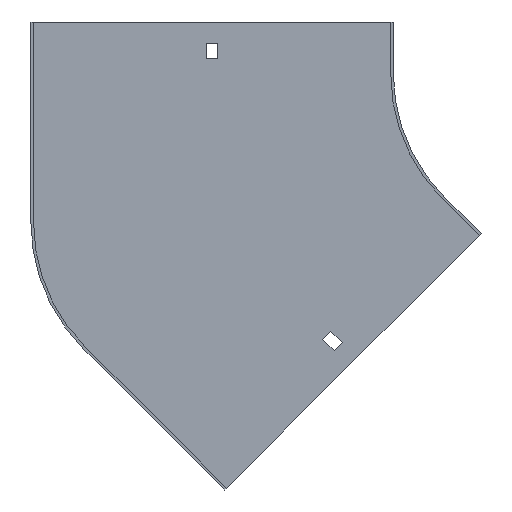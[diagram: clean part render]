
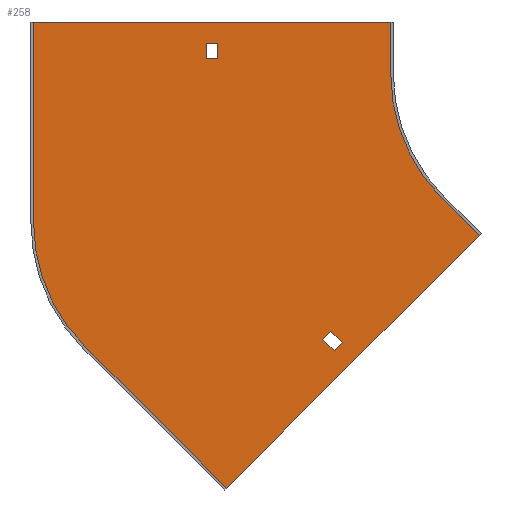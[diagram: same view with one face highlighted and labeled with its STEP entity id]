
A CAD part, front view. The second image highlights one B-rep face of the part: STEP entity #258.
In plain terms, the highlighted planar face has unit normal (0, -1, 0).
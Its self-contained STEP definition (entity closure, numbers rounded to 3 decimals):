
#14 = DIRECTION ( 'NONE',  ( 1., 0., 0. ) ) ;
#22 = EDGE_LOOP ( 'NONE', ( #295, #64, #396, #722 ) ) ;
#36 = CARTESIAN_POINT ( 'NONE',  ( -140.537, -1.5, -140.537 ) ) ;
#39 = VERTEX_POINT ( 'NONE', #66 ) ;
#41 = LINE ( 'NONE', #36, #296 ) ;
#59 = VECTOR ( 'NONE', #246, 1000. ) ;
#64 = ORIENTED_EDGE ( 'NONE', *, *, #183, .T. ) ;
#66 = CARTESIAN_POINT ( 'NONE',  ( -49.497, -1.5, -91.924 ) ) ;
#67 = VECTOR ( 'NONE', #14, 1000. ) ;
#71 = LINE ( 'NONE', #613, #67 ) ;
#80 = VERTEX_POINT ( 'NONE', #731 ) ;
#92 = LINE ( 'NONE', #821, #505 ) ;
#97 = FACE_BOUND ( 'NONE', #22, .T. ) ;
#98 = AXIS2_PLACEMENT_3D ( 'NONE', #254, #718, #122 ) ;
#109 = EDGE_CURVE ( 'NONE', #740, #611, #71, .T. ) ;
#121 = EDGE_CURVE ( 'NONE', #611, #605, #732, .T. ) ;
#122 = DIRECTION ( 'NONE',  ( 0., 0., -1. ) ) ;
#130 = VERTEX_POINT ( 'NONE', #672 ) ;
#141 = ORIENTED_EDGE ( 'NONE', *, *, #393, .F. ) ;
#151 = LINE ( 'NONE', #157, #405 ) ;
#152 = ORIENTED_EDGE ( 'NONE', *, *, #121, .F. ) ;
#157 = CARTESIAN_POINT ( 'NONE',  ( -205.25, -1.5, 0. ) ) ;
#166 = DIRECTION ( 'NONE',  ( -0.707, 0., -0.707 ) ) ;
#172 = VERTEX_POINT ( 'NONE', #753 ) ;
#173 = EDGE_CURVE ( 'NONE', #367, #740, #369, .T. ) ;
#174 = CARTESIAN_POINT ( 'NONE',  ( -205.25, -1.5, 18. ) ) ;
#183 = EDGE_CURVE ( 'NONE', #130, #172, #92, .T. ) ;
#200 = LINE ( 'NONE', #606, #340 ) ;
#212 = VERTEX_POINT ( 'NONE', #432 ) ;
#217 = VERTEX_POINT ( 'NONE', #574 ) ;
#219 = VECTOR ( 'NONE', #262, 1000. ) ;
#223 = DIRECTION ( 'NONE',  ( 0., 0., -1. ) ) ;
#239 = DIRECTION ( 'NONE',  ( 1., 0., 0. ) ) ;
#242 = AXIS2_PLACEMENT_3D ( 'NONE', #500, #556, #621 ) ;
#243 = DIRECTION ( 'NONE',  ( 0., 0., -1. ) ) ;
#244 = EDGE_CURVE ( 'NONE', #612, #812, #151, .T. ) ;
#246 = DIRECTION ( 'NONE',  ( -0.707, 0., -0.707 ) ) ;
#248 = ORIENTED_EDGE ( 'NONE', *, *, #593, .F. ) ;
#252 = CARTESIAN_POINT ( 'NONE',  ( -70.711, -1.5, -70.711 ) ) ;
#254 = CARTESIAN_POINT ( 'NONE',  ( -204., -1.5, -84.5 ) ) ;
#258 = ADVANCED_FACE ( 'NONE', ( #833, #705, #97 ), #366, .T. ) ;
#262 = DIRECTION ( 'NONE',  ( -1., 0., 0. ) ) ;
#264 = EDGE_CURVE ( 'NONE', #605, #590, #835, .T. ) ;
#267 = DIRECTION ( 'NONE',  ( 0., 0., -1. ) ) ;
#272 = DIRECTION ( 'NONE',  ( 0.707, 0., 0.707 ) ) ;
#279 = ORIENTED_EDGE ( 'NONE', *, *, #109, .F. ) ;
#295 = ORIENTED_EDGE ( 'NONE', *, *, #326, .T. ) ;
#296 = VECTOR ( 'NONE', #626, 1000. ) ;
#305 = DIRECTION ( 'NONE',  ( -0.707, 0., 0.707 ) ) ;
#307 = LINE ( 'NONE', #829, #735 ) ;
#313 = LINE ( 'NONE', #834, #59 ) ;
#323 = EDGE_LOOP ( 'NONE', ( #328, #736, #141, #442 ) ) ;
#324 = LINE ( 'NONE', #392, #770 ) ;
#326 = EDGE_CURVE ( 'NONE', #812, #130, #307, .T. ) ;
#328 = ORIENTED_EDGE ( 'NONE', *, *, #752, .F. ) ;
#340 = VECTOR ( 'NONE', #272, 1000. ) ;
#360 = EDGE_CURVE ( 'NONE', #217, #367, #483, .T. ) ;
#363 = AXIS2_PLACEMENT_3D ( 'NONE', #374, #451, #243 ) ;
#366 = PLANE ( 'NONE',  #242 ) ;
#367 = VERTEX_POINT ( 'NONE', #463 ) ;
#369 = LINE ( 'NONE', #495, #646 ) ;
#374 = CARTESIAN_POINT ( 'NONE',  ( 0., -1.5, 0. ) ) ;
#378 = LINE ( 'NONE', #506, #661 ) ;
#379 = DIRECTION ( 'NONE',  ( 0., 0., 1. ) ) ;
#392 = CARTESIAN_POINT ( 'NONE',  ( -70.711, -1.5, -70.711 ) ) ;
#393 = EDGE_CURVE ( 'NONE', #547, #846, #466, .T. ) ;
#396 = ORIENTED_EDGE ( 'NONE', *, *, #604, .T. ) ;
#405 = VECTOR ( 'NONE', #379, 1000. ) ;
#432 = CARTESIAN_POINT ( 'NONE',  ( -134.174, -1.5, -146.901 ) ) ;
#441 = VECTOR ( 'NONE', #267, 1000. ) ;
#442 = ORIENTED_EDGE ( 'NONE', *, *, #577, .F. ) ;
#451 = DIRECTION ( 'NONE',  ( 0., -1., 0. ) ) ;
#456 = ORIENTED_EDGE ( 'NONE', *, *, #517, .F. ) ;
#463 = CARTESIAN_POINT ( 'NONE',  ( -304., -1.5, -84.5 ) ) ;
#466 = LINE ( 'NONE', #779, #859 ) ;
#483 = CIRCLE ( 'NONE', #98, 100. ) ;
#495 = CARTESIAN_POINT ( 'NONE',  ( -304., -1.5, -84.5 ) ) ;
#500 = CARTESIAN_POINT ( 'NONE',  ( 0., -1.5, 0. ) ) ;
#505 = VECTOR ( 'NONE', #223, 1000. ) ;
#506 = CARTESIAN_POINT ( 'NONE',  ( -48.437, -1.5, -90.863 ) ) ;
#517 = EDGE_CURVE ( 'NONE', #80, #217, #647, .T. ) ;
#534 = ORIENTED_EDGE ( 'NONE', *, *, #360, .F. ) ;
#547 = VERTEX_POINT ( 'NONE', #824 ) ;
#548 = EDGE_LOOP ( 'NONE', ( #279, #708, #534, #456, #712, #248, #789, #152 ) ) ;
#550 = VECTOR ( 'NONE', #305, 1000. ) ;
#556 = DIRECTION ( 'NONE',  ( 0., -1., 0. ) ) ;
#558 = DIRECTION ( 'NONE',  ( 0., 0., 1. ) ) ;
#574 = CARTESIAN_POINT ( 'NONE',  ( -274.711, -1.5, -155.21 ) ) ;
#577 = EDGE_CURVE ( 'NONE', #212, #547, #313, .T. ) ;
#580 = DIRECTION ( 'NONE',  ( 0.707, 0., -0.707 ) ) ;
#584 = CARTESIAN_POINT ( 'NONE',  ( -100., -1.5, 0. ) ) ;
#590 = VERTEX_POINT ( 'NONE', #252 ) ;
#593 = EDGE_CURVE ( 'NONE', #590, #39, #324, .T. ) ;
#604 = EDGE_CURVE ( 'NONE', #172, #612, #786, .T. ) ;
#605 = VERTEX_POINT ( 'NONE', #584 ) ;
#606 = CARTESIAN_POINT ( 'NONE',  ( 12.728, -1.5, -12.728 ) ) ;
#608 = CARTESIAN_POINT ( 'NONE',  ( -304., -1.5, 30. ) ) ;
#611 = VERTEX_POINT ( 'NONE', #842 ) ;
#612 = VERTEX_POINT ( 'NONE', #858 ) ;
#613 = CARTESIAN_POINT ( 'NONE',  ( -305.5, -1.5, 30. ) ) ;
#621 = DIRECTION ( 'NONE',  ( 0., 0., -1. ) ) ;
#626 = DIRECTION ( 'NONE',  ( -0.707, 0., 0.707 ) ) ;
#639 = CARTESIAN_POINT ( 'NONE',  ( -193.747, -1.5, -236.174 ) ) ;
#646 = VECTOR ( 'NONE', #558, 1000. ) ;
#647 = LINE ( 'NONE', #639, #550 ) ;
#661 = VECTOR ( 'NONE', #166, 1000. ) ;
#666 = DIRECTION ( 'NONE',  ( 0.707, 0., -0.707 ) ) ;
#672 = CARTESIAN_POINT ( 'NONE',  ( -198.75, -1.5, 18. ) ) ;
#705 = FACE_OUTER_BOUND ( 'NONE', #548, .T. ) ;
#708 = ORIENTED_EDGE ( 'NONE', *, *, #173, .F. ) ;
#712 = ORIENTED_EDGE ( 'NONE', *, *, #778, .F. ) ;
#718 = DIRECTION ( 'NONE',  ( 0., 1., 0. ) ) ;
#721 = CARTESIAN_POINT ( 'NONE',  ( 0., -1.5, 9. ) ) ;
#722 = ORIENTED_EDGE ( 'NONE', *, *, #244, .T. ) ;
#731 = CARTESIAN_POINT ( 'NONE',  ( -193.747, -1.5, -236.174 ) ) ;
#732 = LINE ( 'NONE', #856, #441 ) ;
#735 = VECTOR ( 'NONE', #239, 1000. ) ;
#736 = ORIENTED_EDGE ( 'NONE', *, *, #843, .F. ) ;
#740 = VERTEX_POINT ( 'NONE', #608 ) ;
#752 = EDGE_CURVE ( 'NONE', #828, #212, #41, .T. ) ;
#753 = CARTESIAN_POINT ( 'NONE',  ( -198.75, -1.5, 9. ) ) ;
#770 = VECTOR ( 'NONE', #666, 1000. ) ;
#778 = EDGE_CURVE ( 'NONE', #39, #80, #378, .T. ) ;
#779 = CARTESIAN_POINT ( 'NONE',  ( -145.134, -1.5, -145.134 ) ) ;
#786 = LINE ( 'NONE', #721, #219 ) ;
#789 = ORIENTED_EDGE ( 'NONE', *, *, #264, .F. ) ;
#798 = CARTESIAN_POINT ( 'NONE',  ( -132.406, -1.5, -157.862 ) ) ;
#812 = VERTEX_POINT ( 'NONE', #174 ) ;
#821 = CARTESIAN_POINT ( 'NONE',  ( -198.75, -1.5, 0. ) ) ;
#824 = CARTESIAN_POINT ( 'NONE',  ( -138.77, -1.5, -151.498 ) ) ;
#828 = VERTEX_POINT ( 'NONE', #850 ) ;
#829 = CARTESIAN_POINT ( 'NONE',  ( 0., -1.5, 18. ) ) ;
#833 = FACE_BOUND ( 'NONE', #323, .T. ) ;
#834 = CARTESIAN_POINT ( 'NONE',  ( 6.364, -1.5, -6.364 ) ) ;
#835 = CIRCLE ( 'NONE', #363, 100. ) ;
#842 = CARTESIAN_POINT ( 'NONE',  ( -100., -1.5, 30. ) ) ;
#843 = EDGE_CURVE ( 'NONE', #846, #828, #200, .T. ) ;
#846 = VERTEX_POINT ( 'NONE', #798 ) ;
#850 = CARTESIAN_POINT ( 'NONE',  ( -127.81, -1.5, -153.265 ) ) ;
#856 = CARTESIAN_POINT ( 'NONE',  ( -100., -1.5, 30. ) ) ;
#858 = CARTESIAN_POINT ( 'NONE',  ( -205.25, -1.5, 9. ) ) ;
#859 = VECTOR ( 'NONE', #580, 1000. ) ;
